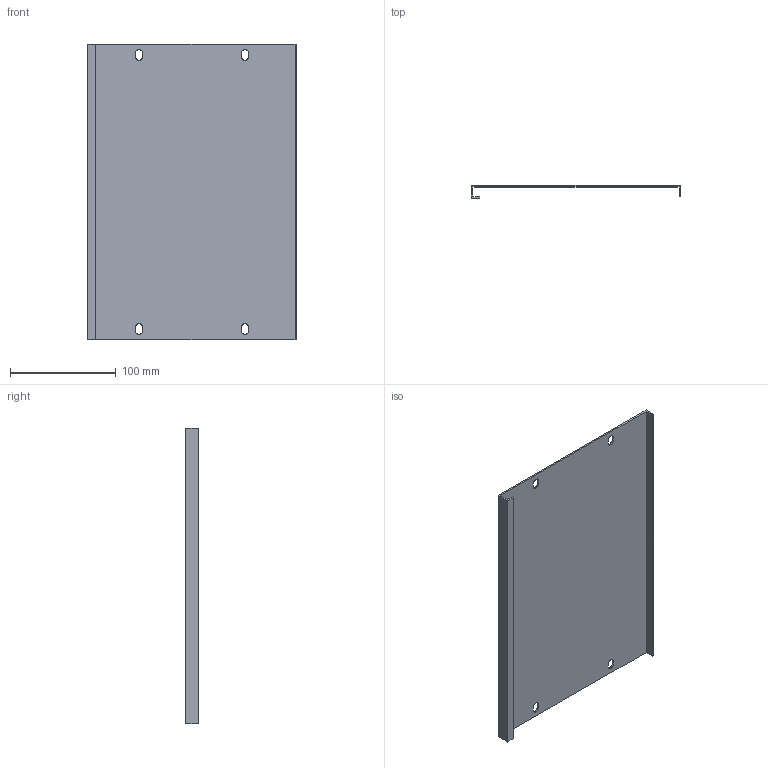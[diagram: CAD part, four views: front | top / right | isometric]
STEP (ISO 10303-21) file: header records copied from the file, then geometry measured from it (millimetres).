
FILE_DESCRIPTION (( 'STEP AP214' ), '1' );
FILE_NAME ('FO-00-PVS-020-040 Ïëàñòðîí ãëóõîé âíóòðåííèé 200õ400.STEP', '2025-08-26T10:27:35', ( '' ), ( '' ), 'SwSTEP 2.0', 'SolidWorks 2023', '' );
FILE_SCHEMA (( 'AUTOMOTIVE_DESIGN' ));
Length unit declared in the file: millimetre
Products named in the file (1): FO-00-PVS-020-040 Пластрон глухой внутренний 200х400
Bounding box: 198 x 12.5 x 279 mm (x, y, z)
Volume: 93387.1 mm3; surface area: 126193.1 mm2
Topology: 1 solids, 1 shells, 42 faces, 120 edges, 80 vertices
Faces by surface type: plane 30, cylinder 12
Entity records: 1407 total; most frequent: CARTESIAN_POINT 243, ORIENTED_EDGE 240, DIRECTION 230, EDGE_CURVE 120, VECTOR 96, LINE 96, VERTEX_POINT 80, AXIS2_PLACEMENT_3D 67
